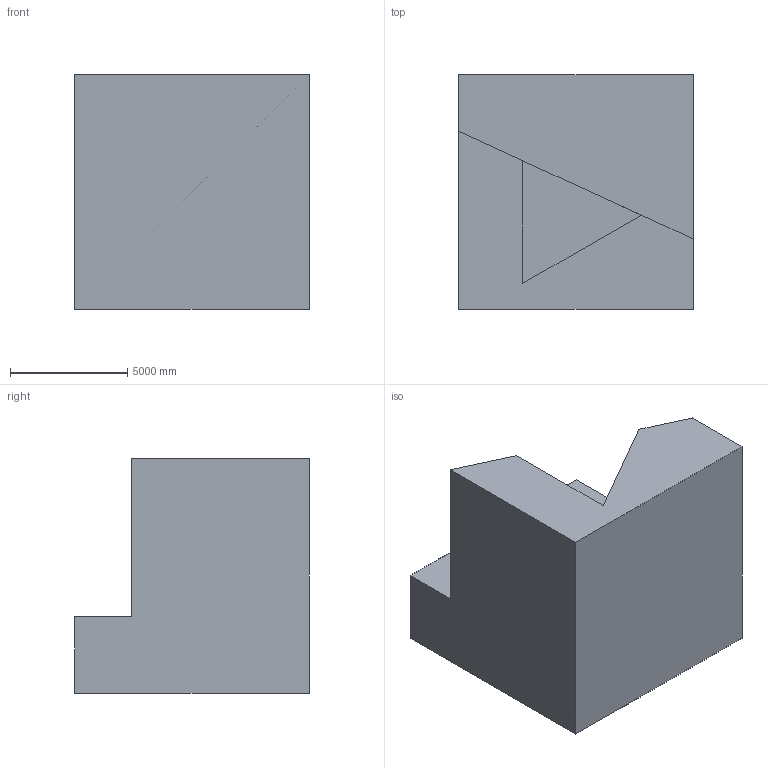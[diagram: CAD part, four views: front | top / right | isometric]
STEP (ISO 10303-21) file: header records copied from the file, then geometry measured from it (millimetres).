
FILE_DESCRIPTION (( 'STEP AP203' ), '1' );
FILE_NAME ('1047.STEP', '2022-08-18T12:33:15', ( 'user' ), ( '' ), 'SwSTEP 2.0', 'SolidWorks 2021', '' );
FILE_SCHEMA (( 'CONFIG_CONTROL_DESIGN' ));
Length unit declared in the file: centimetre
Products named in the file (1): 1047
Bounding box: 10000 x 10000 x 10000 mm (x, y, z)
Volume: 624459378178.9 mm3; surface area: 567221946 mm2
Topology: 1 solids, 1 shells, 11 faces, 27 edges, 18 vertices
Faces by surface type: plane 11
Entity records: 398 total; most frequent: CARTESIAN_POINT 57, ORIENTED_EDGE 54, DIRECTION 51, LINE 27, EDGE_CURVE 27, VECTOR 27, VERTEX_POINT 18, AXIS2_PLACEMENT_3D 12
